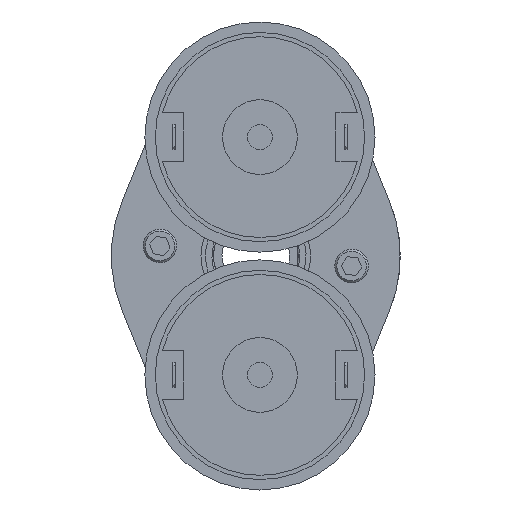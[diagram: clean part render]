
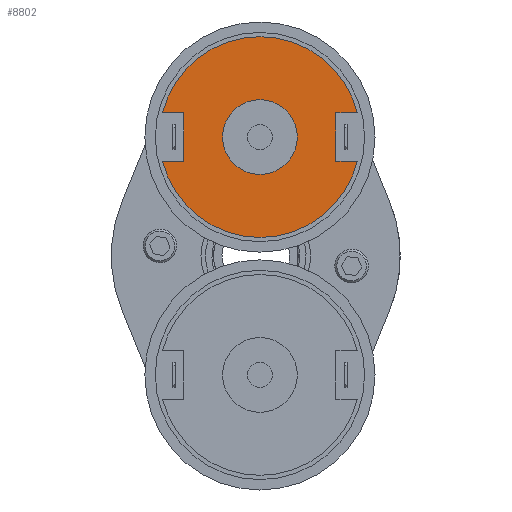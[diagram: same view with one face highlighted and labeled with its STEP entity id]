
A CAD part, front view. The second image highlights one B-rep face of the part: STEP entity #8802.
In plain terms, the highlighted planar face has unit normal (0, -1, 0) as drawn and (1, 0, 0) by its records, which use the part's own axes.
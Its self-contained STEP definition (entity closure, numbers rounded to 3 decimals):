
#405 = VERTEX_POINT ( 'NONE', #59625 ) ;
#1277 = DIRECTION ( 'NONE',  ( 0., 0., -1. ) ) ;
#1321 = DIRECTION ( 'NONE',  ( 1., 0., 0. ) ) ;
#1388 = CARTESIAN_POINT ( 'NONE',  ( 65.2, 0., 0. ) ) ;
#1891 = VECTOR ( 'NONE', #38382, 1000. ) ;
#1913 = CARTESIAN_POINT ( 'NONE',  ( 65.2, -19.551, 4.875 ) ) ;
#1963 = EDGE_CURVE ( 'NONE', #11809, #43354, #35276, .T. ) ;
#4597 = EDGE_CURVE ( 'NONE', #14565, #405, #46899, .T. ) ;
#4717 = DIRECTION ( 'NONE',  ( 0., -1., 0. ) ) ;
#5420 = VECTOR ( 'NONE', #13297, 1000. ) ;
#5577 = ORIENTED_EDGE ( 'NONE', *, *, #48848, .F. ) ;
#5681 = CIRCLE ( 'NONE', #44302, 20.15 ) ;
#6242 = VECTOR ( 'NONE', #44882, 1000. ) ;
#7908 = ORIENTED_EDGE ( 'NONE', *, *, #1963, .T. ) ;
#8802 = ADVANCED_FACE ( 'NONE', ( #25924, #13404 ), #41339, .T. ) ;
#9201 = ORIENTED_EDGE ( 'NONE', *, *, #12230, .F. ) ;
#9467 = DIRECTION ( 'NONE',  ( 1., 0., 0. ) ) ;
#9536 = DIRECTION ( 'NONE',  ( 1., 0., 0. ) ) ;
#10605 = ORIENTED_EDGE ( 'NONE', *, *, #4597, .F. ) ;
#11809 = VERTEX_POINT ( 'NONE', #47545 ) ;
#12230 = EDGE_CURVE ( 'NONE', #405, #43354, #34659, .T. ) ;
#13020 = CARTESIAN_POINT ( 'NONE',  ( 65.2, 0., 0. ) ) ;
#13297 = DIRECTION ( 'NONE',  ( 0., 0., 1. ) ) ;
#13404 = FACE_OUTER_BOUND ( 'NONE', #53987, .T. ) ;
#14565 = VERTEX_POINT ( 'NONE', #28291 ) ;
#14620 = VERTEX_POINT ( 'NONE', #26469 ) ;
#15798 = CARTESIAN_POINT ( 'NONE',  ( 65.2, 0., -7.5 ) ) ;
#16018 = LINE ( 'NONE', #19374, #1891 ) ;
#16642 = VERTEX_POINT ( 'NONE', #28416 ) ;
#17242 = ORIENTED_EDGE ( 'NONE', *, *, #24088, .F. ) ;
#17783 = DIRECTION ( 'NONE',  ( 0., 0., -1. ) ) ;
#18969 = CARTESIAN_POINT ( 'NONE',  ( 65.2, -15.25, 4.875 ) ) ;
#18986 = ORIENTED_EDGE ( 'NONE', *, *, #48620, .T. ) ;
#19253 = VERTEX_POINT ( 'NONE', #45459 ) ;
#19374 = CARTESIAN_POINT ( 'NONE',  ( 65.2, -20.426, -4.875 ) ) ;
#19520 = CARTESIAN_POINT ( 'NONE',  ( 65.2, 0., 4.875 ) ) ;
#20966 = CARTESIAN_POINT ( 'NONE',  ( 65.2, 19.551, -4.875 ) ) ;
#23428 = VECTOR ( 'NONE', #4717, 1000. ) ;
#23589 = VECTOR ( 'NONE', #39934, 1000. ) ;
#23942 = EDGE_CURVE ( 'NONE', #19253, #31487, #32058, .T. ) ;
#24088 = EDGE_CURVE ( 'NONE', #56685, #30662, #24623, .T. ) ;
#24109 = CARTESIAN_POINT ( 'NONE',  ( 65.2, 0., 7.5 ) ) ;
#24623 = CIRCLE ( 'NONE', #56666, 7.5 ) ;
#25846 = VERTEX_POINT ( 'NONE', #1913 ) ;
#25924 = FACE_BOUND ( 'NONE', #26636, .T. ) ;
#26020 = DIRECTION ( 'NONE',  ( 1., 0., 0. ) ) ;
#26469 = CARTESIAN_POINT ( 'NONE',  ( 65.2, 19.551, 4.875 ) ) ;
#26636 = EDGE_LOOP ( 'NONE', ( #17242, #33770 ) ) ;
#28291 = CARTESIAN_POINT ( 'NONE',  ( 65.2, 15.25, 4.875 ) ) ;
#28416 = CARTESIAN_POINT ( 'NONE',  ( 65.2, -19.551, -4.875 ) ) ;
#30343 = ORIENTED_EDGE ( 'NONE', *, *, #54239, .T. ) ;
#30662 = VERTEX_POINT ( 'NONE', #15798 ) ;
#31487 = VERTEX_POINT ( 'NONE', #18969 ) ;
#31873 = CARTESIAN_POINT ( 'NONE',  ( 65.2, -15.25, 4.875 ) ) ;
#32058 = LINE ( 'NONE', #31873, #5420 ) ;
#32528 = CIRCLE ( 'NONE', #59239, 20.15 ) ;
#32555 = EDGE_CURVE ( 'NONE', #16642, #19253, #16018, .T. ) ;
#32722 = AXIS2_PLACEMENT_3D ( 'NONE', #37792, #9467, #42528 ) ;
#32836 = EDGE_CURVE ( 'NONE', #30662, #56685, #55934, .T. ) ;
#33770 = ORIENTED_EDGE ( 'NONE', *, *, #32836, .F. ) ;
#34130 = ORIENTED_EDGE ( 'NONE', *, *, #23942, .F. ) ;
#34659 = LINE ( 'NONE', #40594, #23589 ) ;
#35276 = CIRCLE ( 'NONE', #42613, 20.15 ) ;
#35905 = VECTOR ( 'NONE', #52557, 1000. ) ;
#36933 = AXIS2_PLACEMENT_3D ( 'NONE', #41348, #41266, #41193 ) ;
#37792 = CARTESIAN_POINT ( 'NONE',  ( 65.2, 0., 0. ) ) ;
#37810 = ORIENTED_EDGE ( 'NONE', *, *, #40712, .T. ) ;
#37856 = CARTESIAN_POINT ( 'NONE',  ( 65.2, 0., 0. ) ) ;
#38382 = DIRECTION ( 'NONE',  ( 0., 1., 0. ) ) ;
#38949 = LINE ( 'NONE', #61342, #23428 ) ;
#39934 = DIRECTION ( 'NONE',  ( 0., 1., 0. ) ) ;
#40594 = CARTESIAN_POINT ( 'NONE',  ( 65.2, 20.426, -4.875 ) ) ;
#40712 = EDGE_CURVE ( 'NONE', #14565, #14620, #59597, .T. ) ;
#41193 = DIRECTION ( 'NONE',  ( 0., 0., -1. ) ) ;
#41266 = DIRECTION ( 'NONE',  ( 1., 0., 0. ) ) ;
#41339 = PLANE ( 'NONE',  #36933 ) ;
#41348 = CARTESIAN_POINT ( 'NONE',  ( 65.2, 0., 0. ) ) ;
#42528 = DIRECTION ( 'NONE',  ( 0., 0., -1. ) ) ;
#42602 = DIRECTION ( 'NONE',  ( 0., 0., -1. ) ) ;
#42613 = AXIS2_PLACEMENT_3D ( 'NONE', #1388, #1321, #1277 ) ;
#43354 = VERTEX_POINT ( 'NONE', #20966 ) ;
#44302 = AXIS2_PLACEMENT_3D ( 'NONE', #54350, #26020, #59128 ) ;
#44419 = CARTESIAN_POINT ( 'NONE',  ( 65.2, 15.25, 4.875 ) ) ;
#44882 = DIRECTION ( 'NONE',  ( 0., 0., -1. ) ) ;
#45459 = CARTESIAN_POINT ( 'NONE',  ( 65.2, -15.25, -4.875 ) ) ;
#46044 = DIRECTION ( 'NONE',  ( 1., 0., 0. ) ) ;
#46899 = LINE ( 'NONE', #44419, #6242 ) ;
#47545 = CARTESIAN_POINT ( 'NONE',  ( 65.2, 0., -20.15 ) ) ;
#48620 = EDGE_CURVE ( 'NONE', #16642, #11809, #5681, .T. ) ;
#48848 = EDGE_CURVE ( 'NONE', #31487, #25846, #38949, .T. ) ;
#51886 = ORIENTED_EDGE ( 'NONE', *, *, #32555, .F. ) ;
#52557 = DIRECTION ( 'NONE',  ( 0., 1., 0. ) ) ;
#53987 = EDGE_LOOP ( 'NONE', ( #30343, #5577, #34130, #51886, #18986, #7908, #9201, #10605, #37810 ) ) ;
#54239 = EDGE_CURVE ( 'NONE', #14620, #25846, #32528, .T. ) ;
#54350 = CARTESIAN_POINT ( 'NONE',  ( 65.2, 0., 0. ) ) ;
#55934 = CIRCLE ( 'NONE', #32722, 7.5 ) ;
#56666 = AXIS2_PLACEMENT_3D ( 'NONE', #37856, #9536, #42602 ) ;
#56685 = VERTEX_POINT ( 'NONE', #24109 ) ;
#59128 = DIRECTION ( 'NONE',  ( 0., 0., -1. ) ) ;
#59239 = AXIS2_PLACEMENT_3D ( 'NONE', #13020, #46044, #17783 ) ;
#59597 = LINE ( 'NONE', #19520, #35905 ) ;
#59625 = CARTESIAN_POINT ( 'NONE',  ( 65.2, 15.25, -4.875 ) ) ;
#61342 = CARTESIAN_POINT ( 'NONE',  ( 65.2, -20.426, 4.875 ) ) ;
